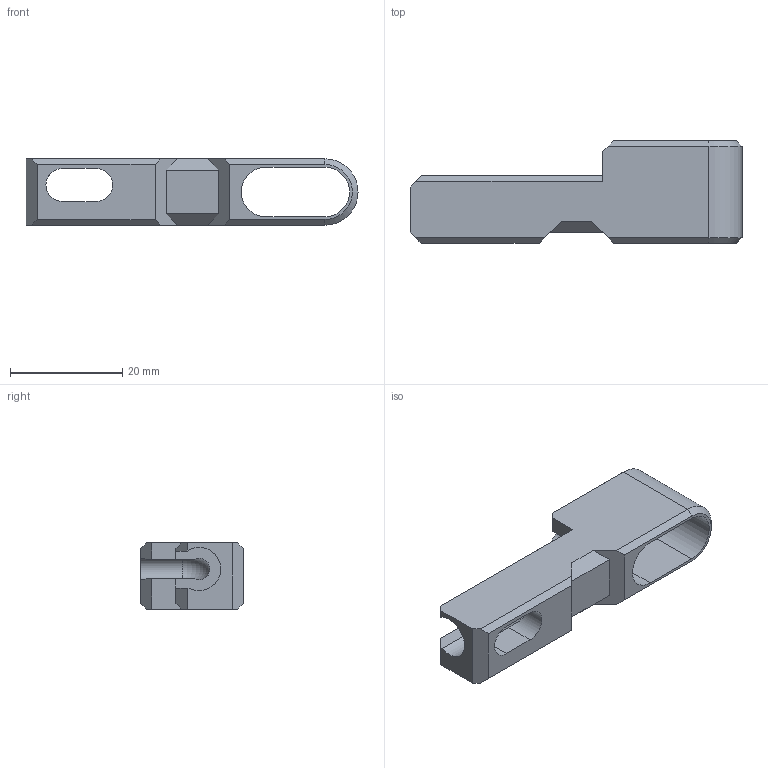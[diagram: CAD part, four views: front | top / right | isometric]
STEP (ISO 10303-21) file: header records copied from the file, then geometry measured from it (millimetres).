
FILE_DESCRIPTION(/* description */ ('STEP AP242','CAx-IF Rec.Pracs.---Representation and Presentation of Product Manufacturing Information (PMI)---4.0---2014-10-13','CAx-IF Rec.Pracs.---3D Tessellated Geometry---0.4---2014-09-14','2;1'),/* implementation_level */ '2;1');
FILE_NAME(/* name */ '687e69d9f344454910d477db',/* time_stamp */ '2025-07-21T16:24:58Z',/* author */ (''),/* organization */ (''),/* preprocessor_version */ 'ST-DEVELOPER v20',/* originating_system */ 'ONSHAPE BY PTC INC, 1.201',/* authorisation */ ' ');
FILE_SCHEMA (('AP242_MANAGED_MODEL_BASED_3D_ENGINEERING_MIM_LF { 1 0 10303 442 1 1 4 }'));
Length unit declared in the file: metre
Products named in the file (1): Cable Anchor
Bounding box: 59.1 x 18.25 x 11.8 mm (x, y, z)
Volume: 4842.2 mm3; surface area: 4314.4 mm2
Topology: 1 solids, 1 shells, 48 faces, 133 edges, 87 vertices
Faces by surface type: plane 37, cylinder 8, cone 2, torus 1
Entity records: 1563 total; most frequent: CARTESIAN_POINT 289, ORIENTED_EDGE 266, DIRECTION 249, EDGE_CURVE 133, LINE 111, VECTOR 111, VERTEX_POINT 87, AXIS2_PLACEMENT_3D 69
